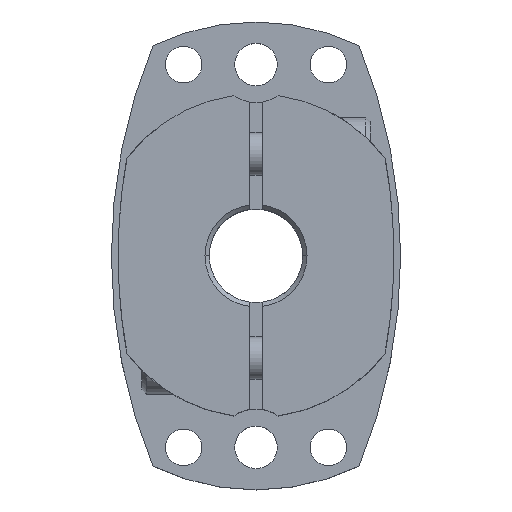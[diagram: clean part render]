
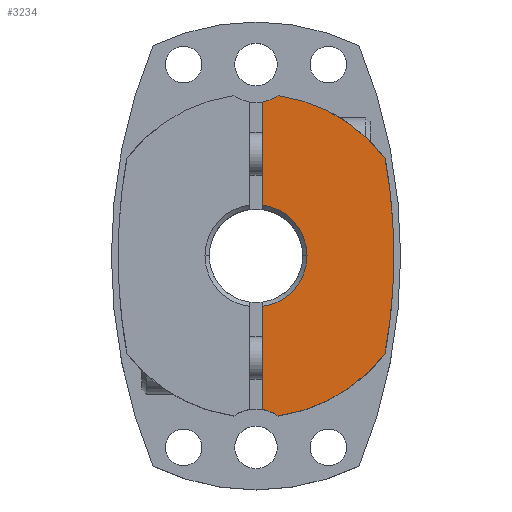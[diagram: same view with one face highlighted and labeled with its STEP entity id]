
A CAD part, top view. The second image highlights one B-rep face of the part: STEP entity #3234.
In plain terms, the highlighted planar face has unit normal (0, 0, 1).
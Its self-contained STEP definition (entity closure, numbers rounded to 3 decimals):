
#225=CARTESIAN_POINT('',(6.0,0.,17.0));
#226=VERTEX_POINT('',#225);
#235=CARTESIAN_POINT('',(0.75,5.953,17.0));
#236=VERTEX_POINT('',#235);
#237=CARTESIAN_POINT('',(0.0,0.,17.0));
#238=DIRECTION('',(0.0,0.0,1.0));
#239=DIRECTION('',(-1.0,0.0,0.0));
#240=AXIS2_PLACEMENT_3D('',#237,#238,#239);
#241=CIRCLE('',#240,6.0);
#242=EDGE_CURVE('',#226,#236,#241,.T.);
#537=CARTESIAN_POINT('',(16.2,0.,17.0));
#538=VERTEX_POINT('',#537);
#646=CARTESIAN_POINT('',(15.173,11.435,17.0));
#647=VERTEX_POINT('',#646);
#654=CARTESIAN_POINT('',(-48.,0.,17.0));
#655=DIRECTION('',(0.0,0.0,-1.0));
#656=DIRECTION('',(1.0,0.0,0.0));
#657=AXIS2_PLACEMENT_3D('',#654,#655,#656);
#658=CIRCLE('',#657,64.2);
#659=EDGE_CURVE('',#647,#538,#658,.T.);
#2305=CARTESIAN_POINT('',(2.593,18.822,17.0));
#2306=VERTEX_POINT('',#2305);
#2313=CARTESIAN_POINT('',(0.,0.,17.0));
#2314=DIRECTION('',(0.0,0.0,-1.0));
#2315=DIRECTION('',(1.0,0.0,0.0));
#2316=AXIS2_PLACEMENT_3D('',#2313,#2314,#2315);
#2317=CIRCLE('',#2316,19.);
#2318=EDGE_CURVE('',#2306,#647,#2317,.T.);
#2531=CARTESIAN_POINT('',(15.173,-11.435,17.0));
#2532=VERTEX_POINT('',#2531);
#2533=CARTESIAN_POINT('',(-48.,0.,17.0));
#2534=DIRECTION('',(0.0,0.0,-1.0));
#2535=DIRECTION('',(1.0,0.0,0.0));
#2536=AXIS2_PLACEMENT_3D('',#2533,#2534,#2535);
#2537=CIRCLE('',#2536,64.2);
#2538=EDGE_CURVE('',#538,#2532,#2537,.T.);
#2747=CARTESIAN_POINT('',(0.75,18.063,17.0));
#2748=VERTEX_POINT('',#2747);
#2755=CARTESIAN_POINT('',(0.,22.5,17.0));
#2756=DIRECTION('',(0.0,0.0,-1.0));
#2757=DIRECTION('',(1.0,0.0,0.0));
#2758=AXIS2_PLACEMENT_3D('',#2755,#2756,#2757);
#2759=CIRCLE('',#2758,4.5);
#2760=EDGE_CURVE('',#2306,#2748,#2759,.T.);
#2772=CARTESIAN_POINT('',(0.75,-18.063,17.0));
#2773=VERTEX_POINT('',#2772);
#2789=CARTESIAN_POINT('',(2.593,-18.822,17.0));
#2790=VERTEX_POINT('',#2789);
#2797=CARTESIAN_POINT('',(0.,-22.5,17.0));
#2798=DIRECTION('',(0.0,0.0,-1.0));
#2799=DIRECTION('',(1.0,0.0,0.0));
#2800=AXIS2_PLACEMENT_3D('',#2797,#2798,#2799);
#2801=CIRCLE('',#2800,4.5);
#2802=EDGE_CURVE('',#2773,#2790,#2801,.T.);
#3156=CARTESIAN_POINT('',(0.75,-5.953,17.0));
#3157=VERTEX_POINT('',#3156);
#3158=CARTESIAN_POINT('',(0.75,-5.953,17.0));
#3159=DIRECTION('',(0.0,-1.0,0.0));
#3160=VECTOR('',#3159,12.11);
#3161=LINE('',#3158,#3160);
#3162=EDGE_CURVE('',#3157,#2773,#3161,.T.);
#3200=CARTESIAN_POINT('',(0.,0.,17.0));
#3201=DIRECTION('',(0.0,0.0,1.0));
#3202=DIRECTION('',(1.0,0.0,0.0));
#3203=AXIS2_PLACEMENT_3D('',#3200,#3201,#3202);
#3204=PLANE('',#3203);
#3205=ORIENTED_EDGE('',*,*,#2760,.T.);
#3206=CARTESIAN_POINT('',(0.75,18.063,17.0));
#3207=DIRECTION('',(0.0,-1.0,0.0));
#3208=VECTOR('',#3207,12.11);
#3209=LINE('',#3206,#3208);
#3210=EDGE_CURVE('',#2748,#236,#3209,.T.);
#3211=ORIENTED_EDGE('',*,*,#3210,.T.);
#3212=ORIENTED_EDGE('',*,*,#242,.F.);
#3213=CARTESIAN_POINT('',(0.0,0.,17.0));
#3214=DIRECTION('',(0.0,0.0,1.0));
#3215=DIRECTION('',(-1.0,0.0,0.0));
#3216=AXIS2_PLACEMENT_3D('',#3213,#3214,#3215);
#3217=CIRCLE('',#3216,6.0);
#3218=EDGE_CURVE('',#3157,#226,#3217,.T.);
#3219=ORIENTED_EDGE('',*,*,#3218,.F.);
#3220=ORIENTED_EDGE('',*,*,#3162,.T.);
#3221=ORIENTED_EDGE('',*,*,#2802,.T.);
#3222=CARTESIAN_POINT('',(0.,0.0,17.0));
#3223=DIRECTION('',(0.0,0.0,-1.0));
#3224=DIRECTION('',(1.0,0.0,0.0));
#3225=AXIS2_PLACEMENT_3D('',#3222,#3223,#3224);
#3226=CIRCLE('',#3225,19.);
#3227=EDGE_CURVE('',#2532,#2790,#3226,.T.);
#3228=ORIENTED_EDGE('',*,*,#3227,.F.);
#3229=ORIENTED_EDGE('',*,*,#2538,.F.);
#3230=ORIENTED_EDGE('',*,*,#659,.F.);
#3231=ORIENTED_EDGE('',*,*,#2318,.F.);
#3232=EDGE_LOOP('',(#3205,#3211,#3212,#3219,#3220,#3221,#3228,#3229,#3230,#3231));
#3233=FACE_OUTER_BOUND('',#3232,.T.);
#3234=ADVANCED_FACE('',(#3233),#3204,.T.);
